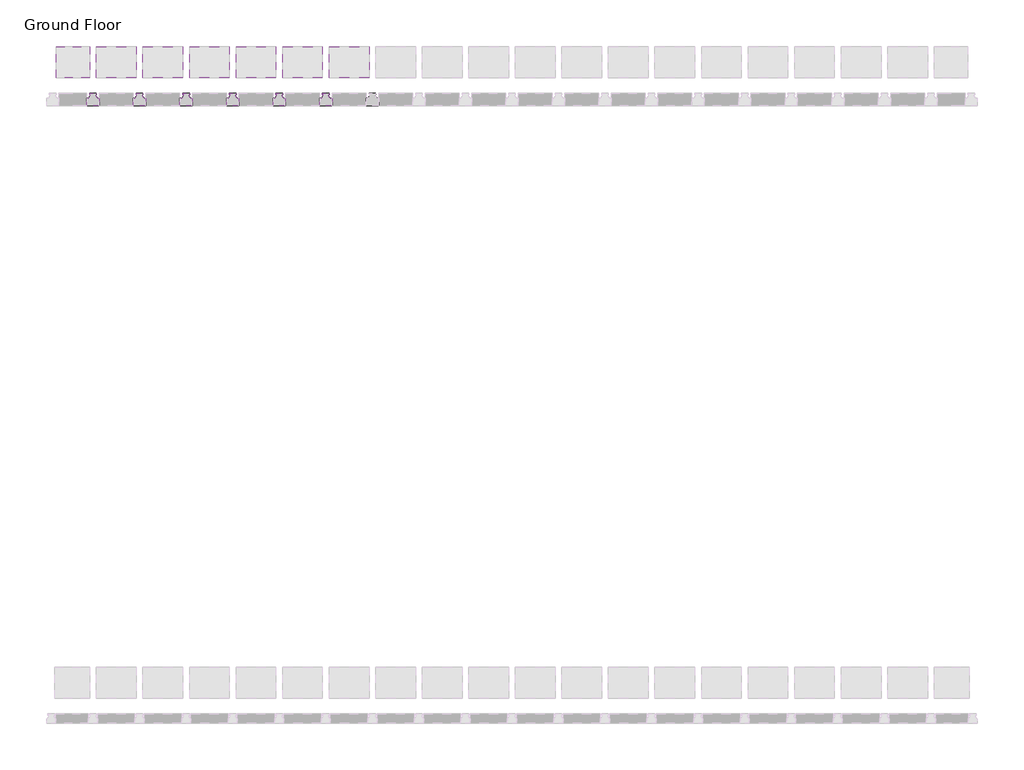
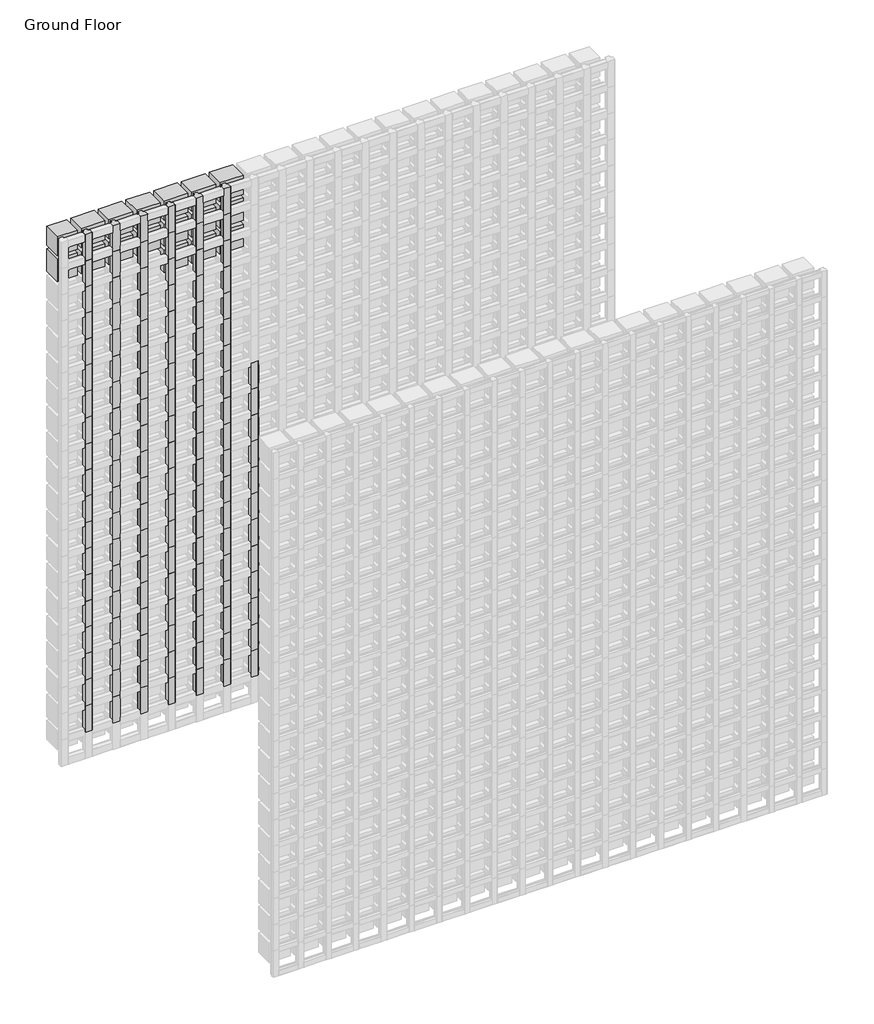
# One storey, part 110 of 350: 126 members, 17 plates.
"""IFC4 building model written with IfcOpenShell, lengths in millimetres."""

from ifc_helpers import new_model, si_unit, origin, place, context, project, spatial, transform, mapped, element, save
from components import rectangular_mullion_84e0df2e, empty_system_panel_empty_5a3607ba, empty_system_panel_empty_abd50de3, empty_system_panel_empty_5e80e148, empty_system_panel_empty_f8a2f29b

model = new_model("IFC4")

# Units and contexts
model_context = context("Model", 3, world=origin())
ifc_project = project(units=[si_unit("LENGTHUNIT", "METRE", prefix="MILLI")], contexts=[model_context])

# Site, building, storey
site = spatial("IfcSite", under=ifc_project)
building = spatial("IfcBuilding", under=site)
storey = spatial("IfcBuildingStorey", under=building, Name="Ground Floor", Elevation=0.0)

# Members
placement = place(None, origin())
rectangular_mullion_shape = rectangular_mullion_84e0df2e(model_context)
element("IfcMember", 1, ObjectType="Rectangular Mullion : Batten_Timber_Modinex_Austratus_Grid_Fin_40x40_AlaskanYellowCedar", at=placement, inside=storey, context=model_context, shape_type="MappedRepresentation", body=[
    mapped(rectangular_mullion_shape, transform((2066.4361642, 44968.2978302, 150.0), x_axis=(1.0, 0.0, 0.0), y_axis=(0.0, -1.0, 0.0), z_axis=(0.0, 0.0, -1.0))),
])
element("IfcMember", 2, ObjectType="Rectangular Mullion : Batten_Timber_Modinex_Austratus_Grid_Fin_40x40_AlaskanYellowCedar", at=placement, inside=storey, context=model_context, shape_type="MappedRepresentation", body=[
    mapped(rectangular_mullion_shape, transform((2066.4361642, 44968.2978302, 300.0), x_axis=(1.0, 0.0, 0.0), y_axis=(0.0, -1.0, 0.0), z_axis=(0.0, 0.0, -1.0))),
])
element("IfcMember", 3, ObjectType="Rectangular Mullion : Batten_Timber_Modinex_Austratus_Grid_Fin_40x40_AlaskanYellowCedar", at=placement, inside=storey, context=model_context, shape_type="MappedRepresentation", body=[
    mapped(rectangular_mullion_shape, transform((2066.4361642, 44968.2978302, 450.0), x_axis=(1.0, 0.0, 0.0), y_axis=(0.0, -1.0, 0.0), z_axis=(0.0, 0.0, -1.0))),
])
element("IfcMember", 4, ObjectType="Rectangular Mullion : Batten_Timber_Modinex_Austratus_Grid_Fin_40x40_AlaskanYellowCedar", at=placement, inside=storey, context=model_context, shape_type="MappedRepresentation", body=[
    mapped(rectangular_mullion_shape, transform((2066.4361642, 44968.2978302, 600.0), x_axis=(1.0, 0.0, 0.0), y_axis=(0.0, -1.0, 0.0), z_axis=(0.0, 0.0, -1.0))),
])
element("IfcMember", 5, ObjectType="Rectangular Mullion : Batten_Timber_Modinex_Austratus_Grid_Fin_40x40_AlaskanYellowCedar", at=placement, inside=storey, context=model_context, shape_type="MappedRepresentation", body=[
    mapped(rectangular_mullion_shape, transform((2066.4361642, 44968.2978302, 750.0), x_axis=(1.0, 0.0, 0.0), y_axis=(0.0, -1.0, 0.0), z_axis=(0.0, 0.0, -1.0))),
])
element("IfcMember", 6, ObjectType="Rectangular Mullion : Batten_Timber_Modinex_Austratus_Grid_Fin_40x40_AlaskanYellowCedar", at=placement, inside=storey, context=model_context, shape_type="MappedRepresentation", body=[
    mapped(rectangular_mullion_shape, transform((2066.4361642, 44968.2978302, 900.0), x_axis=(1.0, 0.0, 0.0), y_axis=(0.0, -1.0, 0.0), z_axis=(0.0, 0.0, -1.0))),
])
element("IfcMember", 7, ObjectType="Rectangular Mullion : Batten_Timber_Modinex_Austratus_Grid_Fin_40x40_AlaskanYellowCedar", at=placement, inside=storey, context=model_context, shape_type="MappedRepresentation", body=[
    mapped(rectangular_mullion_shape, transform((2066.4361642, 44968.2978302, 1050.0), x_axis=(1.0, 0.0, 0.0), y_axis=(0.0, -1.0, 0.0), z_axis=(0.0, 0.0, -1.0))),
])
element("IfcMember", 8, ObjectType="Rectangular Mullion : Batten_Timber_Modinex_Austratus_Grid_Fin_40x40_AlaskanYellowCedar", at=placement, inside=storey, context=model_context, shape_type="MappedRepresentation", body=[
    mapped(rectangular_mullion_shape, transform((2066.4361642, 44968.2978302, 1200.0), x_axis=(1.0, 0.0, 0.0), y_axis=(0.0, -1.0, 0.0), z_axis=(0.0, 0.0, -1.0))),
])
element("IfcMember", 9, ObjectType="Rectangular Mullion : Batten_Timber_Modinex_Austratus_Grid_Fin_40x40_AlaskanYellowCedar", at=placement, inside=storey, context=model_context, shape_type="MappedRepresentation", body=[
    mapped(rectangular_mullion_shape, transform((2066.4361642, 44968.2978302, 1350.0), x_axis=(1.0, 0.0, 0.0), y_axis=(0.0, -1.0, 0.0), z_axis=(0.0, 0.0, -1.0))),
])
element("IfcMember", 10, ObjectType="Rectangular Mullion : Batten_Timber_Modinex_Austratus_Grid_Fin_40x40_AlaskanYellowCedar", at=placement, inside=storey, context=model_context, shape_type="MappedRepresentation", body=[
    mapped(rectangular_mullion_shape, transform((2066.4361642, 44968.2978302, 1500.0), x_axis=(1.0, 0.0, 0.0), y_axis=(0.0, -1.0, 0.0), z_axis=(0.0, 0.0, -1.0))),
])
element("IfcMember", 11, ObjectType="Rectangular Mullion : Batten_Timber_Modinex_Austratus_Grid_Fin_40x40_AlaskanYellowCedar", at=placement, inside=storey, context=model_context, shape_type="MappedRepresentation", body=[
    mapped(rectangular_mullion_shape, transform((2066.4361642, 44968.2978302, 1650.0), x_axis=(1.0, 0.0, 0.0), y_axis=(0.0, -1.0, 0.0), z_axis=(0.0, 0.0, -1.0))),
])
element("IfcMember", 12, ObjectType="Rectangular Mullion : Batten_Timber_Modinex_Austratus_Grid_Fin_40x40_AlaskanYellowCedar", at=placement, inside=storey, context=model_context, shape_type="MappedRepresentation", body=[
    mapped(rectangular_mullion_shape, transform((2066.4361642, 44968.2978302, 1800.0), x_axis=(1.0, 0.0, 0.0), y_axis=(0.0, -1.0, 0.0), z_axis=(0.0, 0.0, -1.0))),
])
element("IfcMember", 13, ObjectType="Rectangular Mullion : Batten_Timber_Modinex_Austratus_Grid_Fin_40x40_AlaskanYellowCedar", at=placement, inside=storey, context=model_context, shape_type="MappedRepresentation", body=[
    mapped(rectangular_mullion_shape, transform((2066.4361642, 44968.2978302, 1950.0), x_axis=(1.0, 0.0, 0.0), y_axis=(0.0, -1.0, 0.0), z_axis=(0.0, 0.0, -1.0))),
])
element("IfcMember", 14, ObjectType="Rectangular Mullion : Batten_Timber_Modinex_Austratus_Grid_Fin_40x40_AlaskanYellowCedar", at=placement, inside=storey, context=model_context, shape_type="MappedRepresentation", body=[
    mapped(rectangular_mullion_shape, transform((2066.4361642, 44968.2978302, 2100.0), x_axis=(1.0, 0.0, 0.0), y_axis=(0.0, -1.0, 0.0), z_axis=(0.0, 0.0, -1.0))),
])
element("IfcMember", 15, ObjectType="Rectangular Mullion : Batten_Timber_Modinex_Austratus_Grid_Fin_40x40_AlaskanYellowCedar", at=placement, inside=storey, context=model_context, shape_type="MappedRepresentation", body=[
    mapped(rectangular_mullion_shape, transform((2066.4361642, 44968.2978302, 2250.0), x_axis=(1.0, 0.0, 0.0), y_axis=(0.0, -1.0, 0.0), z_axis=(0.0, 0.0, -1.0))),
])
element("IfcMember", 16, ObjectType="Rectangular Mullion : Batten_Timber_Modinex_Austratus_Grid_Fin_40x40_AlaskanYellowCedar", at=placement, inside=storey, context=model_context, shape_type="MappedRepresentation", body=[
    mapped(rectangular_mullion_shape, transform((2066.4361642, 44968.2978302, 2400.0), x_axis=(1.0, 0.0, 0.0), y_axis=(0.0, -1.0, 0.0), z_axis=(0.0, 0.0, -1.0))),
])
element("IfcMember", 17, ObjectType="Rectangular Mullion : Batten_Timber_Modinex_Austratus_Grid_Fin_40x40_AlaskanYellowCedar", at=placement, inside=storey, context=model_context, shape_type="MappedRepresentation", body=[
    mapped(rectangular_mullion_shape, transform((2066.4361642, 44968.2978302, 2550.0), x_axis=(1.0, 0.0, 0.0), y_axis=(0.0, -1.0, 0.0), z_axis=(0.0, 0.0, -1.0))),
])
element("IfcMember", 18, ObjectType="Rectangular Mullion : Batten_Timber_Modinex_Austratus_Grid_Fin_40x40_AlaskanYellowCedar", at=placement, inside=storey, context=model_context, shape_type="MappedRepresentation", body=[
    mapped(rectangular_mullion_shape, transform((2066.4361642, 44968.2978302, 2700.0), x_axis=(1.0, 0.0, 0.0), y_axis=(0.0, -1.0, 0.0), z_axis=(0.0, 0.0, -1.0))),
])
element("IfcMember", 19, ObjectType="Rectangular Mullion : Batten_Timber_Modinex_Austratus_Grid_Fin_40x40_AlaskanYellowCedar", at=placement, inside=storey, context=model_context, shape_type="MappedRepresentation", body=[
    mapped(rectangular_mullion_shape, transform((2216.4361642, 44968.2978302, 150.0), x_axis=(1.0, 0.0, 0.0), y_axis=(0.0, -1.0, 0.0), z_axis=(0.0, 0.0, -1.0))),
])
element("IfcMember", 20, ObjectType="Rectangular Mullion : Batten_Timber_Modinex_Austratus_Grid_Fin_40x40_AlaskanYellowCedar", at=placement, inside=storey, context=model_context, shape_type="MappedRepresentation", body=[
    mapped(rectangular_mullion_shape, transform((2216.4361642, 44968.2978302, 300.0), x_axis=(1.0, 0.0, 0.0), y_axis=(0.0, -1.0, 0.0), z_axis=(0.0, 0.0, -1.0))),
])
element("IfcMember", 21, ObjectType="Rectangular Mullion : Batten_Timber_Modinex_Austratus_Grid_Fin_40x40_AlaskanYellowCedar", at=placement, inside=storey, context=model_context, shape_type="MappedRepresentation", body=[
    mapped(rectangular_mullion_shape, transform((2216.4361642, 44968.2978302, 450.0), x_axis=(1.0, 0.0, 0.0), y_axis=(0.0, -1.0, 0.0), z_axis=(0.0, 0.0, -1.0))),
])
element("IfcMember", 22, ObjectType="Rectangular Mullion : Batten_Timber_Modinex_Austratus_Grid_Fin_40x40_AlaskanYellowCedar", at=placement, inside=storey, context=model_context, shape_type="MappedRepresentation", body=[
    mapped(rectangular_mullion_shape, transform((2216.4361642, 44968.2978302, 600.0), x_axis=(1.0, 0.0, 0.0), y_axis=(0.0, -1.0, 0.0), z_axis=(0.0, 0.0, -1.0))),
])
element("IfcMember", 23, ObjectType="Rectangular Mullion : Batten_Timber_Modinex_Austratus_Grid_Fin_40x40_AlaskanYellowCedar", at=placement, inside=storey, context=model_context, shape_type="MappedRepresentation", body=[
    mapped(rectangular_mullion_shape, transform((2216.4361642, 44968.2978302, 750.0), x_axis=(1.0, 0.0, 0.0), y_axis=(0.0, -1.0, 0.0), z_axis=(0.0, 0.0, -1.0))),
])
element("IfcMember", 24, ObjectType="Rectangular Mullion : Batten_Timber_Modinex_Austratus_Grid_Fin_40x40_AlaskanYellowCedar", at=placement, inside=storey, context=model_context, shape_type="MappedRepresentation", body=[
    mapped(rectangular_mullion_shape, transform((2216.4361642, 44968.2978302, 900.0), x_axis=(1.0, 0.0, 0.0), y_axis=(0.0, -1.0, 0.0), z_axis=(0.0, 0.0, -1.0))),
])
element("IfcMember", 25, ObjectType="Rectangular Mullion : Batten_Timber_Modinex_Austratus_Grid_Fin_40x40_AlaskanYellowCedar", at=placement, inside=storey, context=model_context, shape_type="MappedRepresentation", body=[
    mapped(rectangular_mullion_shape, transform((2216.4361642, 44968.2978302, 1050.0), x_axis=(1.0, 0.0, 0.0), y_axis=(0.0, -1.0, 0.0), z_axis=(0.0, 0.0, -1.0))),
])
element("IfcMember", 26, ObjectType="Rectangular Mullion : Batten_Timber_Modinex_Austratus_Grid_Fin_40x40_AlaskanYellowCedar", at=placement, inside=storey, context=model_context, shape_type="MappedRepresentation", body=[
    mapped(rectangular_mullion_shape, transform((2216.4361642, 44968.2978302, 1200.0), x_axis=(1.0, 0.0, 0.0), y_axis=(0.0, -1.0, 0.0), z_axis=(0.0, 0.0, -1.0))),
])
element("IfcMember", 27, ObjectType="Rectangular Mullion : Batten_Timber_Modinex_Austratus_Grid_Fin_40x40_AlaskanYellowCedar", at=placement, inside=storey, context=model_context, shape_type="MappedRepresentation", body=[
    mapped(rectangular_mullion_shape, transform((2216.4361642, 44968.2978302, 1350.0), x_axis=(1.0, 0.0, 0.0), y_axis=(0.0, -1.0, 0.0), z_axis=(0.0, 0.0, -1.0))),
])
element("IfcMember", 28, ObjectType="Rectangular Mullion : Batten_Timber_Modinex_Austratus_Grid_Fin_40x40_AlaskanYellowCedar", at=placement, inside=storey, context=model_context, shape_type="MappedRepresentation", body=[
    mapped(rectangular_mullion_shape, transform((2216.4361642, 44968.2978302, 1500.0), x_axis=(1.0, 0.0, 0.0), y_axis=(0.0, -1.0, 0.0), z_axis=(0.0, 0.0, -1.0))),
])
element("IfcMember", 29, ObjectType="Rectangular Mullion : Batten_Timber_Modinex_Austratus_Grid_Fin_40x40_AlaskanYellowCedar", at=placement, inside=storey, context=model_context, shape_type="MappedRepresentation", body=[
    mapped(rectangular_mullion_shape, transform((2216.4361642, 44968.2978302, 1650.0), x_axis=(1.0, 0.0, 0.0), y_axis=(0.0, -1.0, 0.0), z_axis=(0.0, 0.0, -1.0))),
])
element("IfcMember", 30, ObjectType="Rectangular Mullion : Batten_Timber_Modinex_Austratus_Grid_Fin_40x40_AlaskanYellowCedar", at=placement, inside=storey, context=model_context, shape_type="MappedRepresentation", body=[
    mapped(rectangular_mullion_shape, transform((2216.4361642, 44968.2978302, 1800.0), x_axis=(1.0, 0.0, 0.0), y_axis=(0.0, -1.0, 0.0), z_axis=(0.0, 0.0, -1.0))),
])
element("IfcMember", 31, ObjectType="Rectangular Mullion : Batten_Timber_Modinex_Austratus_Grid_Fin_40x40_AlaskanYellowCedar", at=placement, inside=storey, context=model_context, shape_type="MappedRepresentation", body=[
    mapped(rectangular_mullion_shape, transform((2216.4361642, 44968.2978302, 1950.0), x_axis=(1.0, 0.0, 0.0), y_axis=(0.0, -1.0, 0.0), z_axis=(0.0, 0.0, -1.0))),
])
element("IfcMember", 32, ObjectType="Rectangular Mullion : Batten_Timber_Modinex_Austratus_Grid_Fin_40x40_AlaskanYellowCedar", at=placement, inside=storey, context=model_context, shape_type="MappedRepresentation", body=[
    mapped(rectangular_mullion_shape, transform((2216.4361642, 44968.2978302, 2100.0), x_axis=(1.0, 0.0, 0.0), y_axis=(0.0, -1.0, 0.0), z_axis=(0.0, 0.0, -1.0))),
])
element("IfcMember", 33, ObjectType="Rectangular Mullion : Batten_Timber_Modinex_Austratus_Grid_Fin_40x40_AlaskanYellowCedar", at=placement, inside=storey, context=model_context, shape_type="MappedRepresentation", body=[
    mapped(rectangular_mullion_shape, transform((2216.4361642, 44968.2978302, 2250.0), x_axis=(1.0, 0.0, 0.0), y_axis=(0.0, -1.0, 0.0), z_axis=(0.0, 0.0, -1.0))),
])
element("IfcMember", 34, ObjectType="Rectangular Mullion : Batten_Timber_Modinex_Austratus_Grid_Fin_40x40_AlaskanYellowCedar", at=placement, inside=storey, context=model_context, shape_type="MappedRepresentation", body=[
    mapped(rectangular_mullion_shape, transform((2216.4361642, 44968.2978302, 2400.0), x_axis=(1.0, 0.0, 0.0), y_axis=(0.0, -1.0, 0.0), z_axis=(0.0, 0.0, -1.0))),
])
element("IfcMember", 35, ObjectType="Rectangular Mullion : Batten_Timber_Modinex_Austratus_Grid_Fin_40x40_AlaskanYellowCedar", at=placement, inside=storey, context=model_context, shape_type="MappedRepresentation", body=[
    mapped(rectangular_mullion_shape, transform((2216.4361642, 44968.2978302, 2550.0), x_axis=(1.0, 0.0, 0.0), y_axis=(0.0, -1.0, 0.0), z_axis=(0.0, 0.0, -1.0))),
])
element("IfcMember", 36, ObjectType="Rectangular Mullion : Batten_Timber_Modinex_Austratus_Grid_Fin_40x40_AlaskanYellowCedar", at=placement, inside=storey, context=model_context, shape_type="MappedRepresentation", body=[
    mapped(rectangular_mullion_shape, transform((2216.4361642, 44968.2978302, 2700.0), x_axis=(1.0, 0.0, 0.0), y_axis=(0.0, -1.0, 0.0), z_axis=(0.0, 0.0, -1.0))),
])
element("IfcMember", 37, ObjectType="Rectangular Mullion : Batten_Timber_Modinex_Austratus_Grid_Fin_40x40_AlaskanYellowCedar", at=placement, inside=storey, context=model_context, shape_type="MappedRepresentation", body=[
    mapped(rectangular_mullion_shape, transform((2366.4361642, 44968.2978302, 150.0), x_axis=(1.0, 0.0, 0.0), y_axis=(0.0, -1.0, 0.0), z_axis=(0.0, 0.0, -1.0))),
])
element("IfcMember", 38, ObjectType="Rectangular Mullion : Batten_Timber_Modinex_Austratus_Grid_Fin_40x40_AlaskanYellowCedar", at=placement, inside=storey, context=model_context, shape_type="MappedRepresentation", body=[
    mapped(rectangular_mullion_shape, transform((2366.4361642, 44968.2978302, 300.0), x_axis=(1.0, 0.0, 0.0), y_axis=(0.0, -1.0, 0.0), z_axis=(0.0, 0.0, -1.0))),
])
element("IfcMember", 39, ObjectType="Rectangular Mullion : Batten_Timber_Modinex_Austratus_Grid_Fin_40x40_AlaskanYellowCedar", at=placement, inside=storey, context=model_context, shape_type="MappedRepresentation", body=[
    mapped(rectangular_mullion_shape, transform((2366.4361642, 44968.2978302, 450.0), x_axis=(1.0, 0.0, 0.0), y_axis=(0.0, -1.0, 0.0), z_axis=(0.0, 0.0, -1.0))),
])
element("IfcMember", 40, ObjectType="Rectangular Mullion : Batten_Timber_Modinex_Austratus_Grid_Fin_40x40_AlaskanYellowCedar", at=placement, inside=storey, context=model_context, shape_type="MappedRepresentation", body=[
    mapped(rectangular_mullion_shape, transform((2366.4361642, 44968.2978302, 600.0), x_axis=(1.0, 0.0, 0.0), y_axis=(0.0, -1.0, 0.0), z_axis=(0.0, 0.0, -1.0))),
])
element("IfcMember", 41, ObjectType="Rectangular Mullion : Batten_Timber_Modinex_Austratus_Grid_Fin_40x40_AlaskanYellowCedar", at=placement, inside=storey, context=model_context, shape_type="MappedRepresentation", body=[
    mapped(rectangular_mullion_shape, transform((2366.4361642, 44968.2978302, 750.0), x_axis=(1.0, 0.0, 0.0), y_axis=(0.0, -1.0, 0.0), z_axis=(0.0, 0.0, -1.0))),
])
element("IfcMember", 42, ObjectType="Rectangular Mullion : Batten_Timber_Modinex_Austratus_Grid_Fin_40x40_AlaskanYellowCedar", at=placement, inside=storey, context=model_context, shape_type="MappedRepresentation", body=[
    mapped(rectangular_mullion_shape, transform((2366.4361642, 44968.2978302, 900.0), x_axis=(1.0, 0.0, 0.0), y_axis=(0.0, -1.0, 0.0), z_axis=(0.0, 0.0, -1.0))),
])
element("IfcMember", 43, ObjectType="Rectangular Mullion : Batten_Timber_Modinex_Austratus_Grid_Fin_40x40_AlaskanYellowCedar", at=placement, inside=storey, context=model_context, shape_type="MappedRepresentation", body=[
    mapped(rectangular_mullion_shape, transform((2366.4361642, 44968.2978302, 1050.0), x_axis=(1.0, 0.0, 0.0), y_axis=(0.0, -1.0, 0.0), z_axis=(0.0, 0.0, -1.0))),
])
element("IfcMember", 44, ObjectType="Rectangular Mullion : Batten_Timber_Modinex_Austratus_Grid_Fin_40x40_AlaskanYellowCedar", at=placement, inside=storey, context=model_context, shape_type="MappedRepresentation", body=[
    mapped(rectangular_mullion_shape, transform((2366.4361642, 44968.2978302, 1200.0), x_axis=(1.0, 0.0, 0.0), y_axis=(0.0, -1.0, 0.0), z_axis=(0.0, 0.0, -1.0))),
])
element("IfcMember", 45, ObjectType="Rectangular Mullion : Batten_Timber_Modinex_Austratus_Grid_Fin_40x40_AlaskanYellowCedar", at=placement, inside=storey, context=model_context, shape_type="MappedRepresentation", body=[
    mapped(rectangular_mullion_shape, transform((2366.4361642, 44968.2978302, 1350.0), x_axis=(1.0, 0.0, 0.0), y_axis=(0.0, -1.0, 0.0), z_axis=(0.0, 0.0, -1.0))),
])
element("IfcMember", 46, ObjectType="Rectangular Mullion : Batten_Timber_Modinex_Austratus_Grid_Fin_40x40_AlaskanYellowCedar", at=placement, inside=storey, context=model_context, shape_type="MappedRepresentation", body=[
    mapped(rectangular_mullion_shape, transform((2366.4361642, 44968.2978302, 1500.0), x_axis=(1.0, 0.0, 0.0), y_axis=(0.0, -1.0, 0.0), z_axis=(0.0, 0.0, -1.0))),
])
element("IfcMember", 47, ObjectType="Rectangular Mullion : Batten_Timber_Modinex_Austratus_Grid_Fin_40x40_AlaskanYellowCedar", at=placement, inside=storey, context=model_context, shape_type="MappedRepresentation", body=[
    mapped(rectangular_mullion_shape, transform((2366.4361642, 44968.2978302, 1650.0), x_axis=(1.0, 0.0, 0.0), y_axis=(0.0, -1.0, 0.0), z_axis=(0.0, 0.0, -1.0))),
])
element("IfcMember", 48, ObjectType="Rectangular Mullion : Batten_Timber_Modinex_Austratus_Grid_Fin_40x40_AlaskanYellowCedar", at=placement, inside=storey, context=model_context, shape_type="MappedRepresentation", body=[
    mapped(rectangular_mullion_shape, transform((2366.4361642, 44968.2978302, 1800.0), x_axis=(1.0, 0.0, 0.0), y_axis=(0.0, -1.0, 0.0), z_axis=(0.0, 0.0, -1.0))),
])
element("IfcMember", 49, ObjectType="Rectangular Mullion : Batten_Timber_Modinex_Austratus_Grid_Fin_40x40_AlaskanYellowCedar", at=placement, inside=storey, context=model_context, shape_type="MappedRepresentation", body=[
    mapped(rectangular_mullion_shape, transform((2366.4361642, 44968.2978302, 1950.0), x_axis=(1.0, 0.0, 0.0), y_axis=(0.0, -1.0, 0.0), z_axis=(0.0, 0.0, -1.0))),
])
element("IfcMember", 50, ObjectType="Rectangular Mullion : Batten_Timber_Modinex_Austratus_Grid_Fin_40x40_AlaskanYellowCedar", at=placement, inside=storey, context=model_context, shape_type="MappedRepresentation", body=[
    mapped(rectangular_mullion_shape, transform((2366.4361642, 44968.2978302, 2100.0), x_axis=(1.0, 0.0, 0.0), y_axis=(0.0, -1.0, 0.0), z_axis=(0.0, 0.0, -1.0))),
])
element("IfcMember", 51, ObjectType="Rectangular Mullion : Batten_Timber_Modinex_Austratus_Grid_Fin_40x40_AlaskanYellowCedar", at=placement, inside=storey, context=model_context, shape_type="MappedRepresentation", body=[
    mapped(rectangular_mullion_shape, transform((2366.4361642, 44968.2978302, 2250.0), x_axis=(1.0, 0.0, 0.0), y_axis=(0.0, -1.0, 0.0), z_axis=(0.0, 0.0, -1.0))),
])
element("IfcMember", 52, ObjectType="Rectangular Mullion : Batten_Timber_Modinex_Austratus_Grid_Fin_40x40_AlaskanYellowCedar", at=placement, inside=storey, context=model_context, shape_type="MappedRepresentation", body=[
    mapped(rectangular_mullion_shape, transform((2366.4361642, 44968.2978302, 2400.0), x_axis=(1.0, 0.0, 0.0), y_axis=(0.0, -1.0, 0.0), z_axis=(0.0, 0.0, -1.0))),
])
element("IfcMember", 53, ObjectType="Rectangular Mullion : Batten_Timber_Modinex_Austratus_Grid_Fin_40x40_AlaskanYellowCedar", at=placement, inside=storey, context=model_context, shape_type="MappedRepresentation", body=[
    mapped(rectangular_mullion_shape, transform((2366.4361642, 44968.2978302, 2550.0), x_axis=(1.0, 0.0, 0.0), y_axis=(0.0, -1.0, 0.0), z_axis=(0.0, 0.0, -1.0))),
])
element("IfcMember", 54, ObjectType="Rectangular Mullion : Batten_Timber_Modinex_Austratus_Grid_Fin_40x40_AlaskanYellowCedar", at=placement, inside=storey, context=model_context, shape_type="MappedRepresentation", body=[
    mapped(rectangular_mullion_shape, transform((2366.4361642, 44968.2978302, 2700.0), x_axis=(1.0, 0.0, 0.0), y_axis=(0.0, -1.0, 0.0), z_axis=(0.0, 0.0, -1.0))),
])
element("IfcMember", 55, ObjectType="Rectangular Mullion : Batten_Timber_Modinex_Austratus_Grid_Fin_40x40_AlaskanYellowCedar", at=placement, inside=storey, context=model_context, shape_type="MappedRepresentation", body=[
    mapped(rectangular_mullion_shape, transform((2516.4361642, 44968.2978302, 150.0), x_axis=(1.0, 0.0, 0.0), y_axis=(0.0, -1.0, 0.0), z_axis=(0.0, 0.0, -1.0))),
])
element("IfcMember", 56, ObjectType="Rectangular Mullion : Batten_Timber_Modinex_Austratus_Grid_Fin_40x40_AlaskanYellowCedar", at=placement, inside=storey, context=model_context, shape_type="MappedRepresentation", body=[
    mapped(rectangular_mullion_shape, transform((2516.4361642, 44968.2978302, 300.0), x_axis=(1.0, 0.0, 0.0), y_axis=(0.0, -1.0, 0.0), z_axis=(0.0, 0.0, -1.0))),
])
element("IfcMember", 57, ObjectType="Rectangular Mullion : Batten_Timber_Modinex_Austratus_Grid_Fin_40x40_AlaskanYellowCedar", at=placement, inside=storey, context=model_context, shape_type="MappedRepresentation", body=[
    mapped(rectangular_mullion_shape, transform((2516.4361642, 44968.2978302, 450.0), x_axis=(1.0, 0.0, 0.0), y_axis=(0.0, -1.0, 0.0), z_axis=(0.0, 0.0, -1.0))),
])
element("IfcMember", 58, ObjectType="Rectangular Mullion : Batten_Timber_Modinex_Austratus_Grid_Fin_40x40_AlaskanYellowCedar", at=placement, inside=storey, context=model_context, shape_type="MappedRepresentation", body=[
    mapped(rectangular_mullion_shape, transform((2516.4361642, 44968.2978302, 600.0), x_axis=(1.0, 0.0, 0.0), y_axis=(0.0, -1.0, 0.0), z_axis=(0.0, 0.0, -1.0))),
])
element("IfcMember", 59, ObjectType="Rectangular Mullion : Batten_Timber_Modinex_Austratus_Grid_Fin_40x40_AlaskanYellowCedar", at=placement, inside=storey, context=model_context, shape_type="MappedRepresentation", body=[
    mapped(rectangular_mullion_shape, transform((2516.4361642, 44968.2978302, 750.0), x_axis=(1.0, 0.0, 0.0), y_axis=(0.0, -1.0, 0.0), z_axis=(0.0, 0.0, -1.0))),
])
element("IfcMember", 60, ObjectType="Rectangular Mullion : Batten_Timber_Modinex_Austratus_Grid_Fin_40x40_AlaskanYellowCedar", at=placement, inside=storey, context=model_context, shape_type="MappedRepresentation", body=[
    mapped(rectangular_mullion_shape, transform((2516.4361642, 44968.2978302, 900.0), x_axis=(1.0, 0.0, 0.0), y_axis=(0.0, -1.0, 0.0), z_axis=(0.0, 0.0, -1.0))),
])
element("IfcMember", 61, ObjectType="Rectangular Mullion : Batten_Timber_Modinex_Austratus_Grid_Fin_40x40_AlaskanYellowCedar", at=placement, inside=storey, context=model_context, shape_type="MappedRepresentation", body=[
    mapped(rectangular_mullion_shape, transform((2516.4361642, 44968.2978302, 1050.0), x_axis=(1.0, 0.0, 0.0), y_axis=(0.0, -1.0, 0.0), z_axis=(0.0, 0.0, -1.0))),
])
element("IfcMember", 62, ObjectType="Rectangular Mullion : Batten_Timber_Modinex_Austratus_Grid_Fin_40x40_AlaskanYellowCedar", at=placement, inside=storey, context=model_context, shape_type="MappedRepresentation", body=[
    mapped(rectangular_mullion_shape, transform((2516.4361642, 44968.2978302, 1200.0), x_axis=(1.0, 0.0, 0.0), y_axis=(0.0, -1.0, 0.0), z_axis=(0.0, 0.0, -1.0))),
])
element("IfcMember", 63, ObjectType="Rectangular Mullion : Batten_Timber_Modinex_Austratus_Grid_Fin_40x40_AlaskanYellowCedar", at=placement, inside=storey, context=model_context, shape_type="MappedRepresentation", body=[
    mapped(rectangular_mullion_shape, transform((2516.4361642, 44968.2978302, 1350.0), x_axis=(1.0, 0.0, 0.0), y_axis=(0.0, -1.0, 0.0), z_axis=(0.0, 0.0, -1.0))),
])
element("IfcMember", 64, ObjectType="Rectangular Mullion : Batten_Timber_Modinex_Austratus_Grid_Fin_40x40_AlaskanYellowCedar", at=placement, inside=storey, context=model_context, shape_type="MappedRepresentation", body=[
    mapped(rectangular_mullion_shape, transform((2516.4361642, 44968.2978302, 1500.0), x_axis=(1.0, 0.0, 0.0), y_axis=(0.0, -1.0, 0.0), z_axis=(0.0, 0.0, -1.0))),
])
element("IfcMember", 65, ObjectType="Rectangular Mullion : Batten_Timber_Modinex_Austratus_Grid_Fin_40x40_AlaskanYellowCedar", at=placement, inside=storey, context=model_context, shape_type="MappedRepresentation", body=[
    mapped(rectangular_mullion_shape, transform((2516.4361642, 44968.2978302, 1650.0), x_axis=(1.0, 0.0, 0.0), y_axis=(0.0, -1.0, 0.0), z_axis=(0.0, 0.0, -1.0))),
])
element("IfcMember", 66, ObjectType="Rectangular Mullion : Batten_Timber_Modinex_Austratus_Grid_Fin_40x40_AlaskanYellowCedar", at=placement, inside=storey, context=model_context, shape_type="MappedRepresentation", body=[
    mapped(rectangular_mullion_shape, transform((2516.4361642, 44968.2978302, 1800.0), x_axis=(1.0, 0.0, 0.0), y_axis=(0.0, -1.0, 0.0), z_axis=(0.0, 0.0, -1.0))),
])
element("IfcMember", 67, ObjectType="Rectangular Mullion : Batten_Timber_Modinex_Austratus_Grid_Fin_40x40_AlaskanYellowCedar", at=placement, inside=storey, context=model_context, shape_type="MappedRepresentation", body=[
    mapped(rectangular_mullion_shape, transform((2516.4361642, 44968.2978302, 1950.0), x_axis=(1.0, 0.0, 0.0), y_axis=(0.0, -1.0, 0.0), z_axis=(0.0, 0.0, -1.0))),
])
element("IfcMember", 68, ObjectType="Rectangular Mullion : Batten_Timber_Modinex_Austratus_Grid_Fin_40x40_AlaskanYellowCedar", at=placement, inside=storey, context=model_context, shape_type="MappedRepresentation", body=[
    mapped(rectangular_mullion_shape, transform((2516.4361642, 44968.2978302, 2100.0), x_axis=(1.0, 0.0, 0.0), y_axis=(0.0, -1.0, 0.0), z_axis=(0.0, 0.0, -1.0))),
])
element("IfcMember", 69, ObjectType="Rectangular Mullion : Batten_Timber_Modinex_Austratus_Grid_Fin_40x40_AlaskanYellowCedar", at=placement, inside=storey, context=model_context, shape_type="MappedRepresentation", body=[
    mapped(rectangular_mullion_shape, transform((2516.4361642, 44968.2978302, 2250.0), x_axis=(1.0, 0.0, 0.0), y_axis=(0.0, -1.0, 0.0), z_axis=(0.0, 0.0, -1.0))),
])
element("IfcMember", 70, ObjectType="Rectangular Mullion : Batten_Timber_Modinex_Austratus_Grid_Fin_40x40_AlaskanYellowCedar", at=placement, inside=storey, context=model_context, shape_type="MappedRepresentation", body=[
    mapped(rectangular_mullion_shape, transform((2516.4361642, 44968.2978302, 2400.0), x_axis=(1.0, 0.0, 0.0), y_axis=(0.0, -1.0, 0.0), z_axis=(0.0, 0.0, -1.0))),
])
element("IfcMember", 71, ObjectType="Rectangular Mullion : Batten_Timber_Modinex_Austratus_Grid_Fin_40x40_AlaskanYellowCedar", at=placement, inside=storey, context=model_context, shape_type="MappedRepresentation", body=[
    mapped(rectangular_mullion_shape, transform((2516.4361642, 44968.2978302, 2550.0), x_axis=(1.0, 0.0, 0.0), y_axis=(0.0, -1.0, 0.0), z_axis=(0.0, 0.0, -1.0))),
])
element("IfcMember", 72, ObjectType="Rectangular Mullion : Batten_Timber_Modinex_Austratus_Grid_Fin_40x40_AlaskanYellowCedar", at=placement, inside=storey, context=model_context, shape_type="MappedRepresentation", body=[
    mapped(rectangular_mullion_shape, transform((2516.4361642, 44968.2978302, 2700.0), x_axis=(1.0, 0.0, 0.0), y_axis=(0.0, -1.0, 0.0), z_axis=(0.0, 0.0, -1.0))),
])
element("IfcMember", 73, ObjectType="Rectangular Mullion : Batten_Timber_Modinex_Austratus_Grid_Fin_40x40_AlaskanYellowCedar", at=placement, inside=storey, context=model_context, shape_type="MappedRepresentation", body=[
    mapped(rectangular_mullion_shape, transform((2666.4361642, 44968.2978302, 150.0), x_axis=(1.0, 0.0, 0.0), y_axis=(0.0, -1.0, 0.0), z_axis=(0.0, 0.0, -1.0))),
])
element("IfcMember", 74, ObjectType="Rectangular Mullion : Batten_Timber_Modinex_Austratus_Grid_Fin_40x40_AlaskanYellowCedar", at=placement, inside=storey, context=model_context, shape_type="MappedRepresentation", body=[
    mapped(rectangular_mullion_shape, transform((2666.4361642, 44968.2978302, 300.0), x_axis=(1.0, 0.0, 0.0), y_axis=(0.0, -1.0, 0.0), z_axis=(0.0, 0.0, -1.0))),
])
element("IfcMember", 75, ObjectType="Rectangular Mullion : Batten_Timber_Modinex_Austratus_Grid_Fin_40x40_AlaskanYellowCedar", at=placement, inside=storey, context=model_context, shape_type="MappedRepresentation", body=[
    mapped(rectangular_mullion_shape, transform((2666.4361642, 44968.2978302, 450.0), x_axis=(1.0, 0.0, 0.0), y_axis=(0.0, -1.0, 0.0), z_axis=(0.0, 0.0, -1.0))),
])
element("IfcMember", 76, ObjectType="Rectangular Mullion : Batten_Timber_Modinex_Austratus_Grid_Fin_40x40_AlaskanYellowCedar", at=placement, inside=storey, context=model_context, shape_type="MappedRepresentation", body=[
    mapped(rectangular_mullion_shape, transform((2666.4361642, 44968.2978302, 600.0), x_axis=(1.0, 0.0, 0.0), y_axis=(0.0, -1.0, 0.0), z_axis=(0.0, 0.0, -1.0))),
])
element("IfcMember", 77, ObjectType="Rectangular Mullion : Batten_Timber_Modinex_Austratus_Grid_Fin_40x40_AlaskanYellowCedar", at=placement, inside=storey, context=model_context, shape_type="MappedRepresentation", body=[
    mapped(rectangular_mullion_shape, transform((2666.4361642, 44968.2978302, 750.0), x_axis=(1.0, 0.0, 0.0), y_axis=(0.0, -1.0, 0.0), z_axis=(0.0, 0.0, -1.0))),
])
element("IfcMember", 78, ObjectType="Rectangular Mullion : Batten_Timber_Modinex_Austratus_Grid_Fin_40x40_AlaskanYellowCedar", at=placement, inside=storey, context=model_context, shape_type="MappedRepresentation", body=[
    mapped(rectangular_mullion_shape, transform((2666.4361642, 44968.2978302, 900.0), x_axis=(1.0, 0.0, 0.0), y_axis=(0.0, -1.0, 0.0), z_axis=(0.0, 0.0, -1.0))),
])
element("IfcMember", 79, ObjectType="Rectangular Mullion : Batten_Timber_Modinex_Austratus_Grid_Fin_40x40_AlaskanYellowCedar", at=placement, inside=storey, context=model_context, shape_type="MappedRepresentation", body=[
    mapped(rectangular_mullion_shape, transform((2666.4361642, 44968.2978302, 1050.0), x_axis=(1.0, 0.0, 0.0), y_axis=(0.0, -1.0, 0.0), z_axis=(0.0, 0.0, -1.0))),
])
element("IfcMember", 80, ObjectType="Rectangular Mullion : Batten_Timber_Modinex_Austratus_Grid_Fin_40x40_AlaskanYellowCedar", at=placement, inside=storey, context=model_context, shape_type="MappedRepresentation", body=[
    mapped(rectangular_mullion_shape, transform((2666.4361642, 44968.2978302, 1200.0), x_axis=(1.0, 0.0, 0.0), y_axis=(0.0, -1.0, 0.0), z_axis=(0.0, 0.0, -1.0))),
])
element("IfcMember", 81, ObjectType="Rectangular Mullion : Batten_Timber_Modinex_Austratus_Grid_Fin_40x40_AlaskanYellowCedar", at=placement, inside=storey, context=model_context, shape_type="MappedRepresentation", body=[
    mapped(rectangular_mullion_shape, transform((2666.4361642, 44968.2978302, 1350.0), x_axis=(1.0, 0.0, 0.0), y_axis=(0.0, -1.0, 0.0), z_axis=(0.0, 0.0, -1.0))),
])
element("IfcMember", 82, ObjectType="Rectangular Mullion : Batten_Timber_Modinex_Austratus_Grid_Fin_40x40_AlaskanYellowCedar", at=placement, inside=storey, context=model_context, shape_type="MappedRepresentation", body=[
    mapped(rectangular_mullion_shape, transform((2666.4361642, 44968.2978302, 1500.0), x_axis=(1.0, 0.0, 0.0), y_axis=(0.0, -1.0, 0.0), z_axis=(0.0, 0.0, -1.0))),
])
element("IfcMember", 83, ObjectType="Rectangular Mullion : Batten_Timber_Modinex_Austratus_Grid_Fin_40x40_AlaskanYellowCedar", at=placement, inside=storey, context=model_context, shape_type="MappedRepresentation", body=[
    mapped(rectangular_mullion_shape, transform((2666.4361642, 44968.2978302, 1650.0), x_axis=(1.0, 0.0, 0.0), y_axis=(0.0, -1.0, 0.0), z_axis=(0.0, 0.0, -1.0))),
])
element("IfcMember", 84, ObjectType="Rectangular Mullion : Batten_Timber_Modinex_Austratus_Grid_Fin_40x40_AlaskanYellowCedar", at=placement, inside=storey, context=model_context, shape_type="MappedRepresentation", body=[
    mapped(rectangular_mullion_shape, transform((2666.4361642, 44968.2978302, 1800.0), x_axis=(1.0, 0.0, 0.0), y_axis=(0.0, -1.0, 0.0), z_axis=(0.0, 0.0, -1.0))),
])
element("IfcMember", 85, ObjectType="Rectangular Mullion : Batten_Timber_Modinex_Austratus_Grid_Fin_40x40_AlaskanYellowCedar", at=placement, inside=storey, context=model_context, shape_type="MappedRepresentation", body=[
    mapped(rectangular_mullion_shape, transform((2666.4361642, 44968.2978302, 1950.0), x_axis=(1.0, 0.0, 0.0), y_axis=(0.0, -1.0, 0.0), z_axis=(0.0, 0.0, -1.0))),
])
element("IfcMember", 86, ObjectType="Rectangular Mullion : Batten_Timber_Modinex_Austratus_Grid_Fin_40x40_AlaskanYellowCedar", at=placement, inside=storey, context=model_context, shape_type="MappedRepresentation", body=[
    mapped(rectangular_mullion_shape, transform((2666.4361642, 44968.2978302, 2100.0), x_axis=(1.0, 0.0, 0.0), y_axis=(0.0, -1.0, 0.0), z_axis=(0.0, 0.0, -1.0))),
])
element("IfcMember", 87, ObjectType="Rectangular Mullion : Batten_Timber_Modinex_Austratus_Grid_Fin_40x40_AlaskanYellowCedar", at=placement, inside=storey, context=model_context, shape_type="MappedRepresentation", body=[
    mapped(rectangular_mullion_shape, transform((2666.4361642, 44968.2978302, 2250.0), x_axis=(1.0, 0.0, 0.0), y_axis=(0.0, -1.0, 0.0), z_axis=(0.0, 0.0, -1.0))),
])
element("IfcMember", 88, ObjectType="Rectangular Mullion : Batten_Timber_Modinex_Austratus_Grid_Fin_40x40_AlaskanYellowCedar", at=placement, inside=storey, context=model_context, shape_type="MappedRepresentation", body=[
    mapped(rectangular_mullion_shape, transform((2666.4361642, 44968.2978302, 2400.0), x_axis=(1.0, 0.0, 0.0), y_axis=(0.0, -1.0, 0.0), z_axis=(0.0, 0.0, -1.0))),
])
element("IfcMember", 89, ObjectType="Rectangular Mullion : Batten_Timber_Modinex_Austratus_Grid_Fin_40x40_AlaskanYellowCedar", at=placement, inside=storey, context=model_context, shape_type="MappedRepresentation", body=[
    mapped(rectangular_mullion_shape, transform((2666.4361642, 44968.2978302, 2550.0), x_axis=(1.0, 0.0, 0.0), y_axis=(0.0, -1.0, 0.0), z_axis=(0.0, 0.0, -1.0))),
])
element("IfcMember", 90, ObjectType="Rectangular Mullion : Batten_Timber_Modinex_Austratus_Grid_Fin_40x40_AlaskanYellowCedar", at=placement, inside=storey, context=model_context, shape_type="MappedRepresentation", body=[
    mapped(rectangular_mullion_shape, transform((2666.4361642, 44968.2978302, 2700.0), x_axis=(1.0, 0.0, 0.0), y_axis=(0.0, -1.0, 0.0), z_axis=(0.0, 0.0, -1.0))),
])
element("IfcMember", 91, ObjectType="Rectangular Mullion : Batten_Timber_Modinex_Austratus_Grid_Fin_40x40_AlaskanYellowCedar", at=placement, inside=storey, context=model_context, shape_type="MappedRepresentation", body=[
    mapped(rectangular_mullion_shape, transform((2816.4361642, 44968.2978302, 150.0), x_axis=(1.0, 0.0, 0.0), y_axis=(0.0, -1.0, 0.0), z_axis=(0.0, 0.0, -1.0))),
])
element("IfcMember", 92, ObjectType="Rectangular Mullion : Batten_Timber_Modinex_Austratus_Grid_Fin_40x40_AlaskanYellowCedar", at=placement, inside=storey, context=model_context, shape_type="MappedRepresentation", body=[
    mapped(rectangular_mullion_shape, transform((2816.4361642, 44968.2978302, 300.0), x_axis=(1.0, 0.0, 0.0), y_axis=(0.0, -1.0, 0.0), z_axis=(0.0, 0.0, -1.0))),
])
element("IfcMember", 93, ObjectType="Rectangular Mullion : Batten_Timber_Modinex_Austratus_Grid_Fin_40x40_AlaskanYellowCedar", at=placement, inside=storey, context=model_context, shape_type="MappedRepresentation", body=[
    mapped(rectangular_mullion_shape, transform((2816.4361642, 44968.2978302, 450.0), x_axis=(1.0, 0.0, 0.0), y_axis=(0.0, -1.0, 0.0), z_axis=(0.0, 0.0, -1.0))),
])
element("IfcMember", 94, ObjectType="Rectangular Mullion : Batten_Timber_Modinex_Austratus_Grid_Fin_40x40_AlaskanYellowCedar", at=placement, inside=storey, context=model_context, shape_type="MappedRepresentation", body=[
    mapped(rectangular_mullion_shape, transform((2816.4361642, 44968.2978302, 600.0), x_axis=(1.0, 0.0, 0.0), y_axis=(0.0, -1.0, 0.0), z_axis=(0.0, 0.0, -1.0))),
])
element("IfcMember", 95, ObjectType="Rectangular Mullion : Batten_Timber_Modinex_Austratus_Grid_Fin_40x40_AlaskanYellowCedar", at=placement, inside=storey, context=model_context, shape_type="MappedRepresentation", body=[
    mapped(rectangular_mullion_shape, transform((2816.4361642, 44968.2978302, 750.0), x_axis=(1.0, 0.0, 0.0), y_axis=(0.0, -1.0, 0.0), z_axis=(0.0, 0.0, -1.0))),
])
element("IfcMember", 96, ObjectType="Rectangular Mullion : Batten_Timber_Modinex_Austratus_Grid_Fin_40x40_AlaskanYellowCedar", at=placement, inside=storey, context=model_context, shape_type="MappedRepresentation", body=[
    mapped(rectangular_mullion_shape, transform((2816.4361642, 44968.2978302, 900.0), x_axis=(1.0, 0.0, 0.0), y_axis=(0.0, -1.0, 0.0), z_axis=(0.0, 0.0, -1.0))),
])
element("IfcMember", 97, ObjectType="Rectangular Mullion : Batten_Timber_Modinex_Austratus_Grid_Fin_40x40_AlaskanYellowCedar", at=placement, inside=storey, context=model_context, shape_type="MappedRepresentation", body=[
    mapped(rectangular_mullion_shape, transform((2816.4361642, 44968.2978302, 1050.0), x_axis=(1.0, 0.0, 0.0), y_axis=(0.0, -1.0, 0.0), z_axis=(0.0, 0.0, -1.0))),
])
element("IfcMember", 98, ObjectType="Rectangular Mullion : Batten_Timber_Modinex_Austratus_Grid_Fin_40x40_AlaskanYellowCedar", at=placement, inside=storey, context=model_context, shape_type="MappedRepresentation", body=[
    mapped(rectangular_mullion_shape, transform((2816.4361642, 44968.2978302, 1200.0), x_axis=(1.0, 0.0, 0.0), y_axis=(0.0, -1.0, 0.0), z_axis=(0.0, 0.0, -1.0))),
])
element("IfcMember", 99, ObjectType="Rectangular Mullion : Batten_Timber_Modinex_Austratus_Grid_Fin_40x40_AlaskanYellowCedar", at=placement, inside=storey, context=model_context, shape_type="MappedRepresentation", body=[
    mapped(rectangular_mullion_shape, transform((2816.4361642, 44968.2978302, 1350.0), x_axis=(1.0, 0.0, 0.0), y_axis=(0.0, -1.0, 0.0), z_axis=(0.0, 0.0, -1.0))),
])
element("IfcMember", 100, ObjectType="Rectangular Mullion : Batten_Timber_Modinex_Austratus_Grid_Fin_40x40_AlaskanYellowCedar", at=placement, inside=storey, context=model_context, shape_type="MappedRepresentation", body=[
    mapped(rectangular_mullion_shape, transform((2816.4361642, 44968.2978302, 1500.0), x_axis=(1.0, 0.0, 0.0), y_axis=(0.0, -1.0, 0.0), z_axis=(0.0, 0.0, -1.0))),
])
element("IfcMember", 101, ObjectType="Rectangular Mullion : Batten_Timber_Modinex_Austratus_Grid_Fin_40x40_AlaskanYellowCedar", at=placement, inside=storey, context=model_context, shape_type="MappedRepresentation", body=[
    mapped(rectangular_mullion_shape, transform((2816.4361642, 44968.2978302, 1650.0), x_axis=(1.0, 0.0, 0.0), y_axis=(0.0, -1.0, 0.0), z_axis=(0.0, 0.0, -1.0))),
])
element("IfcMember", 102, ObjectType="Rectangular Mullion : Batten_Timber_Modinex_Austratus_Grid_Fin_40x40_AlaskanYellowCedar", at=placement, inside=storey, context=model_context, shape_type="MappedRepresentation", body=[
    mapped(rectangular_mullion_shape, transform((2816.4361642, 44968.2978302, 1800.0), x_axis=(1.0, 0.0, 0.0), y_axis=(0.0, -1.0, 0.0), z_axis=(0.0, 0.0, -1.0))),
])
element("IfcMember", 103, ObjectType="Rectangular Mullion : Batten_Timber_Modinex_Austratus_Grid_Fin_40x40_AlaskanYellowCedar", at=placement, inside=storey, context=model_context, shape_type="MappedRepresentation", body=[
    mapped(rectangular_mullion_shape, transform((2816.4361642, 44968.2978302, 1950.0), x_axis=(1.0, 0.0, 0.0), y_axis=(0.0, -1.0, 0.0), z_axis=(0.0, 0.0, -1.0))),
])
element("IfcMember", 104, ObjectType="Rectangular Mullion : Batten_Timber_Modinex_Austratus_Grid_Fin_40x40_AlaskanYellowCedar", at=placement, inside=storey, context=model_context, shape_type="MappedRepresentation", body=[
    mapped(rectangular_mullion_shape, transform((2816.4361642, 44968.2978302, 2100.0), x_axis=(1.0, 0.0, 0.0), y_axis=(0.0, -1.0, 0.0), z_axis=(0.0, 0.0, -1.0))),
])
element("IfcMember", 105, ObjectType="Rectangular Mullion : Batten_Timber_Modinex_Austratus_Grid_Fin_40x40_AlaskanYellowCedar", at=placement, inside=storey, context=model_context, shape_type="MappedRepresentation", body=[
    mapped(rectangular_mullion_shape, transform((2816.4361642, 44968.2978302, 2250.0), x_axis=(1.0, 0.0, 0.0), y_axis=(0.0, -1.0, 0.0), z_axis=(0.0, 0.0, -1.0))),
])
element("IfcMember", 106, ObjectType="Rectangular Mullion : Batten_Timber_Modinex_Austratus_Grid_Fin_40x40_AlaskanYellowCedar", at=placement, inside=storey, context=model_context, shape_type="MappedRepresentation", body=[
    mapped(rectangular_mullion_shape, transform((2816.4361642, 44968.2978302, 2400.0), x_axis=(1.0, 0.0, 0.0), y_axis=(0.0, -1.0, 0.0), z_axis=(0.0, 0.0, -1.0))),
])
element("IfcMember", 107, ObjectType="Rectangular Mullion : Batten_Timber_Modinex_Austratus_Grid_Fin_40x40_AlaskanYellowCedar", at=placement, inside=storey, context=model_context, shape_type="MappedRepresentation", body=[
    mapped(rectangular_mullion_shape, transform((2816.4361642, 44968.2978302, 2550.0), x_axis=(1.0, 0.0, 0.0), y_axis=(0.0, -1.0, 0.0), z_axis=(0.0, 0.0, -1.0))),
])
element("IfcMember", 108, ObjectType="Rectangular Mullion : Batten_Timber_Modinex_Austratus_Grid_Fin_40x40_AlaskanYellowCedar", at=placement, inside=storey, context=model_context, shape_type="MappedRepresentation", body=[
    mapped(rectangular_mullion_shape, transform((2816.4361642, 44968.2978302, 2700.0), x_axis=(1.0, 0.0, 0.0), y_axis=(0.0, -1.0, 0.0), z_axis=(0.0, 0.0, -1.0))),
])
element("IfcMember", 109, ObjectType="Rectangular Mullion : Batten_Timber_Modinex_Austratus_Grid_Fin_40x40_AlaskanYellowCedar", at=placement, inside=storey, context=model_context, shape_type="MappedRepresentation", body=[
    mapped(rectangular_mullion_shape, transform((2966.4361642, 44968.2978302, 150.0), x_axis=(1.0, 0.0, 0.0), y_axis=(0.0, -1.0, 0.0), z_axis=(0.0, 0.0, -1.0))),
])
element("IfcMember", 110, ObjectType="Rectangular Mullion : Batten_Timber_Modinex_Austratus_Grid_Fin_40x40_AlaskanYellowCedar", at=placement, inside=storey, context=model_context, shape_type="MappedRepresentation", body=[
    mapped(rectangular_mullion_shape, transform((2966.4361642, 44968.2978302, 300.0), x_axis=(1.0, 0.0, 0.0), y_axis=(0.0, -1.0, 0.0), z_axis=(0.0, 0.0, -1.0))),
])
element("IfcMember", 111, ObjectType="Rectangular Mullion : Batten_Timber_Modinex_Austratus_Grid_Fin_40x40_AlaskanYellowCedar", at=placement, inside=storey, context=model_context, shape_type="MappedRepresentation", body=[
    mapped(rectangular_mullion_shape, transform((2966.4361642, 44968.2978302, 450.0), x_axis=(1.0, 0.0, 0.0), y_axis=(0.0, -1.0, 0.0), z_axis=(0.0, 0.0, -1.0))),
])
element("IfcMember", 112, ObjectType="Rectangular Mullion : Batten_Timber_Modinex_Austratus_Grid_Fin_40x40_AlaskanYellowCedar", at=placement, inside=storey, context=model_context, shape_type="MappedRepresentation", body=[
    mapped(rectangular_mullion_shape, transform((2966.4361642, 44968.2978302, 600.0), x_axis=(1.0, 0.0, 0.0), y_axis=(0.0, -1.0, 0.0), z_axis=(0.0, 0.0, -1.0))),
])
element("IfcMember", 113, ObjectType="Rectangular Mullion : Batten_Timber_Modinex_Austratus_Grid_Fin_40x40_AlaskanYellowCedar", at=placement, inside=storey, context=model_context, shape_type="MappedRepresentation", body=[
    mapped(rectangular_mullion_shape, transform((2966.4361642, 44968.2978302, 750.0), x_axis=(1.0, 0.0, 0.0), y_axis=(0.0, -1.0, 0.0), z_axis=(0.0, 0.0, -1.0))),
])
element("IfcMember", 114, ObjectType="Rectangular Mullion : Batten_Timber_Modinex_Austratus_Grid_Fin_40x40_AlaskanYellowCedar", at=placement, inside=storey, context=model_context, shape_type="MappedRepresentation", body=[
    mapped(rectangular_mullion_shape, transform((2966.4361642, 44968.2978302, 900.0), x_axis=(1.0, 0.0, 0.0), y_axis=(0.0, -1.0, 0.0), z_axis=(0.0, 0.0, -1.0))),
])
element("IfcMember", 115, ObjectType="Rectangular Mullion : Batten_Timber_Modinex_Austratus_Grid_Fin_40x40_AlaskanYellowCedar", at=placement, inside=storey, context=model_context, shape_type="MappedRepresentation", body=[
    mapped(rectangular_mullion_shape, transform((2966.4361642, 44968.2978302, 1050.0), x_axis=(1.0, 0.0, 0.0), y_axis=(0.0, -1.0, 0.0), z_axis=(0.0, 0.0, -1.0))),
])
element("IfcMember", 116, ObjectType="Rectangular Mullion : Batten_Timber_Modinex_Austratus_Grid_Fin_40x40_AlaskanYellowCedar", at=placement, inside=storey, context=model_context, shape_type="MappedRepresentation", body=[
    mapped(rectangular_mullion_shape, transform((2966.4361642, 44968.2978302, 1200.0), x_axis=(1.0, 0.0, 0.0), y_axis=(0.0, -1.0, 0.0), z_axis=(0.0, 0.0, -1.0))),
])
element("IfcMember", 117, ObjectType="Rectangular Mullion : Batten_Timber_Modinex_Austratus_Grid_Fin_40x40_AlaskanYellowCedar", at=placement, inside=storey, context=model_context, shape_type="MappedRepresentation", body=[
    mapped(rectangular_mullion_shape, transform((2966.4361642, 44968.2978302, 1350.0), x_axis=(1.0, 0.0, 0.0), y_axis=(0.0, -1.0, 0.0), z_axis=(0.0, 0.0, -1.0))),
])
element("IfcMember", 118, ObjectType="Rectangular Mullion : Batten_Timber_Modinex_Austratus_Grid_Fin_40x40_AlaskanYellowCedar", at=placement, inside=storey, context=model_context, shape_type="MappedRepresentation", body=[
    mapped(rectangular_mullion_shape, transform((2966.4361642, 44968.2978302, 1500.0), x_axis=(1.0, 0.0, 0.0), y_axis=(0.0, -1.0, 0.0), z_axis=(0.0, 0.0, -1.0))),
])
element("IfcMember", 119, ObjectType="Rectangular Mullion : Batten_Timber_Modinex_Austratus_Grid_Fin_40x40_AlaskanYellowCedar", at=placement, inside=storey, context=model_context, shape_type="MappedRepresentation", body=[
    mapped(rectangular_mullion_shape, transform((2966.4361642, 44968.2978302, 1650.0), x_axis=(1.0, 0.0, 0.0), y_axis=(0.0, -1.0, 0.0), z_axis=(0.0, 0.0, -1.0))),
])
element("IfcMember", 120, ObjectType="Rectangular Mullion : Batten_Timber_Modinex_Austratus_Grid_Fin_40x40_AlaskanYellowCedar", at=placement, inside=storey, context=model_context, shape_type="MappedRepresentation", body=[
    mapped(rectangular_mullion_shape, transform((2966.4361642, 44968.2978302, 1800.0), x_axis=(1.0, 0.0, 0.0), y_axis=(0.0, -1.0, 0.0), z_axis=(0.0, 0.0, -1.0))),
])
element("IfcMember", 121, ObjectType="Rectangular Mullion : Batten_Timber_Modinex_Austratus_Grid_Fin_40x40_AlaskanYellowCedar", at=placement, inside=storey, context=model_context, shape_type="MappedRepresentation", body=[
    mapped(rectangular_mullion_shape, transform((2066.4361642, 44968.2978302, 2850.0), x_axis=(1.0, 0.0, 0.0), y_axis=(0.0, -1.0, 0.0), z_axis=(0.0, 0.0, -1.0))),
])
element("IfcMember", 122, ObjectType="Rectangular Mullion : Batten_Timber_Modinex_Austratus_Grid_Fin_40x40_AlaskanYellowCedar", at=placement, inside=storey, context=model_context, shape_type="MappedRepresentation", body=[
    mapped(rectangular_mullion_shape, transform((2216.4361642, 44968.2978302, 2850.0), x_axis=(1.0, 0.0, 0.0), y_axis=(0.0, -1.0, 0.0), z_axis=(0.0, 0.0, -1.0))),
])
element("IfcMember", 123, ObjectType="Rectangular Mullion : Batten_Timber_Modinex_Austratus_Grid_Fin_40x40_AlaskanYellowCedar", at=placement, inside=storey, context=model_context, shape_type="MappedRepresentation", body=[
    mapped(rectangular_mullion_shape, transform((2366.4361642, 44968.2978302, 2850.0), x_axis=(1.0, 0.0, 0.0), y_axis=(0.0, -1.0, 0.0), z_axis=(0.0, 0.0, -1.0))),
])
element("IfcMember", 124, ObjectType="Rectangular Mullion : Batten_Timber_Modinex_Austratus_Grid_Fin_40x40_AlaskanYellowCedar", at=placement, inside=storey, context=model_context, shape_type="MappedRepresentation", body=[
    mapped(rectangular_mullion_shape, transform((2516.4361642, 44968.2978302, 2850.0), x_axis=(1.0, 0.0, 0.0), y_axis=(0.0, -1.0, 0.0), z_axis=(0.0, 0.0, -1.0))),
])
element("IfcMember", 125, ObjectType="Rectangular Mullion : Batten_Timber_Modinex_Austratus_Grid_Fin_40x40_AlaskanYellowCedar", at=placement, inside=storey, context=model_context, shape_type="MappedRepresentation", body=[
    mapped(rectangular_mullion_shape, transform((2666.4361642, 44968.2978302, 2850.0), x_axis=(1.0, 0.0, 0.0), y_axis=(0.0, -1.0, 0.0), z_axis=(0.0, 0.0, -1.0))),
])
element("IfcMember", 126, ObjectType="Rectangular Mullion : Batten_Timber_Modinex_Austratus_Grid_Fin_40x40_AlaskanYellowCedar", at=placement, inside=storey, context=model_context, shape_type="MappedRepresentation", body=[
    mapped(rectangular_mullion_shape, transform((2816.4361642, 44968.2978302, 2850.0), x_axis=(1.0, 0.0, 0.0), y_axis=(0.0, -1.0, 0.0), z_axis=(0.0, 0.0, -1.0))),
])

# Plates
empty_system_panel_empty_shape = empty_system_panel_empty_5a3607ba(model_context)
element("IfcPlate", 127, ObjectType="Empty System Panel : Empty", at=placement, inside=storey, context=model_context, shape_type="MappedRepresentation", body=[
    mapped(empty_system_panel_empty_shape, transform((2591.4361642, 44968.2978302, 2560.812195), x_axis=(1.0, 0.0, 0.0), y_axis=(0.0, 1.0, 0.0), z_axis=(0.0, 0.0, 1.0))),
])
element("IfcPlate", 128, ObjectType="Empty System Panel : Empty", at=placement, inside=storey, context=model_context, shape_type="MappedRepresentation", body=[
    mapped(empty_system_panel_empty_shape, transform((2741.4361642, 44968.2978302, 2560.812195), x_axis=(1.0, 0.0, 0.0), y_axis=(0.0, 1.0, 0.0), z_axis=(0.0, 0.0, 1.0))),
])
element("IfcPlate", 129, ObjectType="Empty System Panel : Empty", at=placement, inside=storey, context=model_context, shape_type="MappedRepresentation", body=[
    mapped(empty_system_panel_empty_shape, transform((2891.4361642, 44968.2978302, 2560.812195), x_axis=(1.0, 0.0, 0.0), y_axis=(0.0, 1.0, 0.0), z_axis=(0.0, 0.0, 1.0))),
])
element("IfcPlate", 130, ObjectType="Empty System Panel : Empty", at=placement, inside=storey, context=model_context, shape_type="MappedRepresentation", body=[
    mapped(empty_system_panel_empty_shape, transform((2141.4361642, 44968.2978302, 2710.812195), x_axis=(1.0, 0.0, 0.0), y_axis=(0.0, 1.0, 0.0), z_axis=(0.0, 0.0, 1.0))),
])
element("IfcPlate", 131, ObjectType="Empty System Panel : Empty", at=placement, inside=storey, context=model_context, shape_type="MappedRepresentation", body=[
    mapped(empty_system_panel_empty_shape, transform((2291.4361642, 44968.2978302, 2710.812195), x_axis=(1.0, 0.0, 0.0), y_axis=(0.0, 1.0, 0.0), z_axis=(0.0, 0.0, 1.0))),
])
element("IfcPlate", 132, ObjectType="Empty System Panel : Empty", at=placement, inside=storey, context=model_context, shape_type="MappedRepresentation", body=[
    mapped(empty_system_panel_empty_shape, transform((2441.4361642, 44968.2978302, 2710.812195), x_axis=(1.0, 0.0, 0.0), y_axis=(0.0, 1.0, 0.0), z_axis=(0.0, 0.0, 1.0))),
])
element("IfcPlate", 133, ObjectType="Empty System Panel : Empty", at=placement, inside=storey, context=model_context, shape_type="MappedRepresentation", body=[
    mapped(empty_system_panel_empty_shape, transform((2591.4361642, 44968.2978302, 2710.812195), x_axis=(1.0, 0.0, 0.0), y_axis=(0.0, 1.0, 0.0), z_axis=(0.0, 0.0, 1.0))),
])
element("IfcPlate", 134, ObjectType="Empty System Panel : Empty", at=placement, inside=storey, context=model_context, shape_type="MappedRepresentation", body=[
    mapped(empty_system_panel_empty_shape, transform((2741.4361642, 44968.2978302, 2710.812195), x_axis=(1.0, 0.0, 0.0), y_axis=(0.0, 1.0, 0.0), z_axis=(0.0, 0.0, 1.0))),
])
element("IfcPlate", 135, ObjectType="Empty System Panel : Empty", at=placement, inside=storey, context=model_context, shape_type="MappedRepresentation", body=[
    mapped(empty_system_panel_empty_shape, transform((2891.4361642, 44968.2978302, 2710.812195), x_axis=(1.0, 0.0, 0.0), y_axis=(0.0, 1.0, 0.0), z_axis=(0.0, 0.0, 1.0))),
])
empty_system_panel_empty_2_shape = empty_system_panel_empty_abd50de3(model_context)
element("IfcPlate", 136, ObjectType="Empty System Panel : Empty", at=placement, inside=storey, context=model_context, shape_type="MappedRepresentation", body=[
    mapped(empty_system_panel_empty_2_shape, transform((2001.4361641, 44968.2978302, 2860.812195), x_axis=(1.0, 0.0, 0.0), y_axis=(0.0, 1.0, 0.0), z_axis=(0.0, 0.0, 1.0))),
])
empty_system_panel_empty_3_shape = empty_system_panel_empty_5e80e148(model_context)
element("IfcPlate", 137, ObjectType="Empty System Panel : Empty", at=placement, inside=storey, context=model_context, shape_type="MappedRepresentation", body=[
    mapped(empty_system_panel_empty_3_shape, transform((2141.4361642, 44968.2978302, 2860.812195), x_axis=(1.0, 0.0, 0.0), y_axis=(0.0, 1.0, 0.0), z_axis=(0.0, 0.0, 1.0))),
])
element("IfcPlate", 138, ObjectType="Empty System Panel : Empty", at=placement, inside=storey, context=model_context, shape_type="MappedRepresentation", body=[
    mapped(empty_system_panel_empty_3_shape, transform((2291.4361642, 44968.2978302, 2860.812195), x_axis=(1.0, 0.0, 0.0), y_axis=(0.0, 1.0, 0.0), z_axis=(0.0, 0.0, 1.0))),
])
element("IfcPlate", 139, ObjectType="Empty System Panel : Empty", at=placement, inside=storey, context=model_context, shape_type="MappedRepresentation", body=[
    mapped(empty_system_panel_empty_3_shape, transform((2441.4361642, 44968.2978302, 2860.812195), x_axis=(1.0, 0.0, 0.0), y_axis=(0.0, 1.0, 0.0), z_axis=(0.0, 0.0, 1.0))),
])
element("IfcPlate", 140, ObjectType="Empty System Panel : Empty", at=placement, inside=storey, context=model_context, shape_type="MappedRepresentation", body=[
    mapped(empty_system_panel_empty_3_shape, transform((2591.4361642, 44968.2978302, 2860.812195), x_axis=(1.0, 0.0, 0.0), y_axis=(0.0, 1.0, 0.0), z_axis=(0.0, 0.0, 1.0))),
])
element("IfcPlate", 141, ObjectType="Empty System Panel : Empty", at=placement, inside=storey, context=model_context, shape_type="MappedRepresentation", body=[
    mapped(empty_system_panel_empty_3_shape, transform((2741.4361642, 44968.2978302, 2860.812195), x_axis=(1.0, 0.0, 0.0), y_axis=(0.0, 1.0, 0.0), z_axis=(0.0, 0.0, 1.0))),
])
element("IfcPlate", 142, ObjectType="Empty System Panel : Empty", at=placement, inside=storey, context=model_context, shape_type="MappedRepresentation", body=[
    mapped(empty_system_panel_empty_3_shape, transform((2891.4361642, 44968.2978302, 2860.812195), x_axis=(1.0, 0.0, 0.0), y_axis=(0.0, 1.0, 0.0), z_axis=(0.0, 0.0, 1.0))),
])
empty_system_panel_empty_4_shape = empty_system_panel_empty_f8a2f29b(model_context)
element("IfcPlate", 143, ObjectType="Empty System Panel : Empty", at=placement, inside=storey, context=model_context, shape_type="MappedRepresentation", body=[
    mapped(empty_system_panel_empty_4_shape, transform((2001.4361641, 44968.2978302, 2710.812195), x_axis=(1.0, 0.0, 0.0), y_axis=(0.0, 1.0, 0.0), z_axis=(0.0, 0.0, 1.0))),
])

save(model, "model.ifc")
